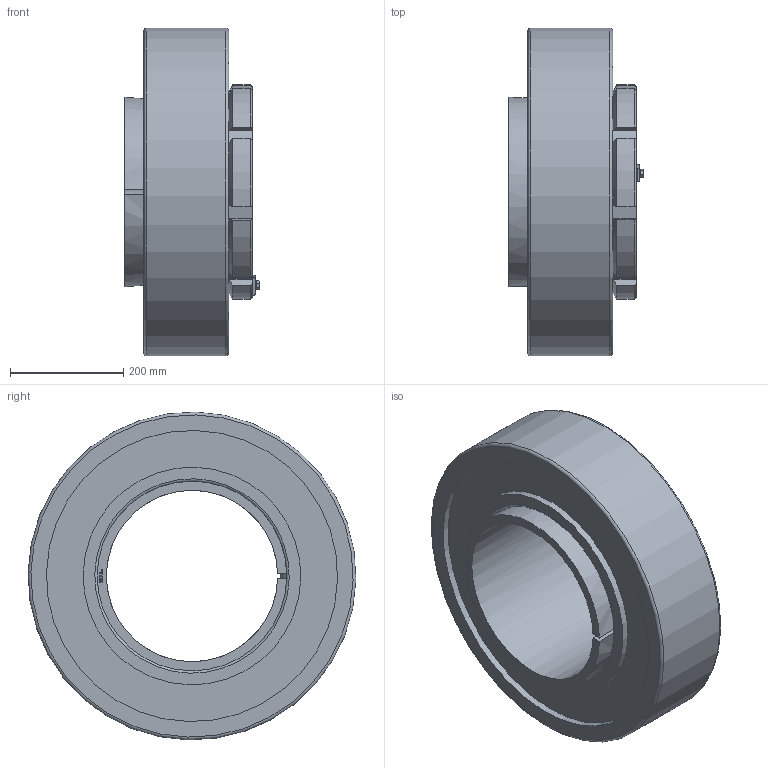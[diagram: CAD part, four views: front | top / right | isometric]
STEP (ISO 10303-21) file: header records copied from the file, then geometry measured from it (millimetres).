
FILE_DESCRIPTION( ( 'STEP AP203' ), ' ' );
FILE_NAME( 'p:/temp/worker_353/3748_4800/app_90_02016102822434043013014192d056f_000000_00_00_000000/format_0/BGL HA 3164 TL+22264K.stp', '2016-10-28T20:43:42', ( '' ), ( '' ), ' ', 'PARTsolutions', ' ' );
FILE_SCHEMA( ( 'CONFIG_CONTROL_DESIGN' ) );
Length unit declared in the file: millimetre
Products named in the file (6): BGL HA 3164 TL+22264K; _BGLHA3164TLB; _BGL HM 3064; _BGLHA3164TL+HA-22264K; _BGL MS 3064-BGL MS 3068part; _BGL MS 3064-BGL MS 3068HHS
Assembly tree (5 placements, depth 2):
  BGL HA 3164 TL+22264K
    _BGLHA3164TLB
    _BGL HM 3064
    _BGLHA3164TL+HA-22264K
    _BGL MS 3064-BGL MS 3068part
    _BGL MS 3064-BGL MS 3068HHS
Bounding box: 238.05 x 579.8 x 579.8 mm (x, y, z)
Volume: 28424660.3 mm3; surface area: 1478857.8 mm2
Topology: 5 solids, 5 shells, 351 faces, 899 edges, 589 vertices
Faces by surface type: plane 230, cylinder 79, cone 38, torus 4
Full cylindrical faces by diameter (mm): 8 x9, 9 x1, 14.8 x1, 315 x1, 385 x2, 515 x2, 580 x1
Entity records: 10762 total; most frequent: CARTESIAN_POINT 2104, DIRECTION 1729, ORIENTED_EDGE 1726, EDGE_CURVE 863, VERTEX_POINT 586, AXIS2_PLACEMENT_3D 577, LINE 575, VECTOR 575
